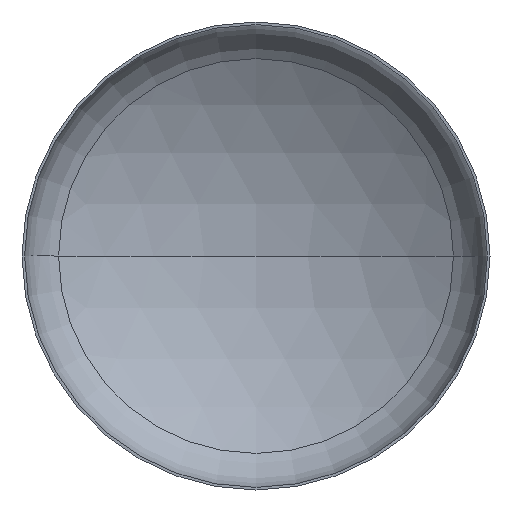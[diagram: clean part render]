
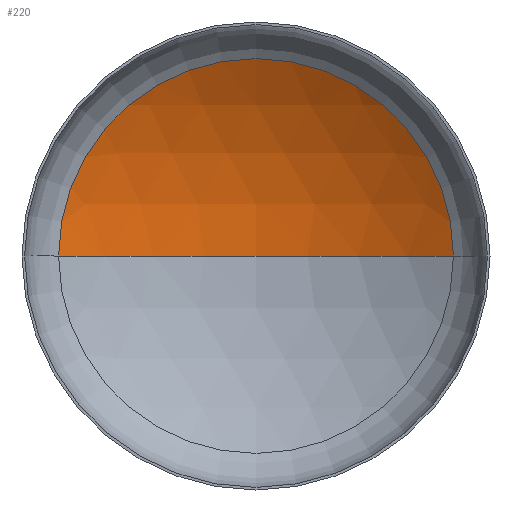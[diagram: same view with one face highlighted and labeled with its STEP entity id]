
A CAD part, front view. The second image highlights one B-rep face of the part: STEP entity #220.
In plain terms, the highlighted spherical face has radius 4400 mm.
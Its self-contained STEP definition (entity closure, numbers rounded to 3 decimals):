
#11 = EDGE_LOOP ( 'NONE', ( #158, #88, #79 ) ) ;
#24 = DIRECTION ( 'NONE',  ( -1., 0., 0. ) ) ;
#39 = VERTEX_POINT ( 'NONE', #200 ) ;
#43 = CIRCLE ( 'NONE', #327, 2319.437 ) ;
#79 = ORIENTED_EDGE ( 'NONE', *, *, #336, .T. ) ;
#88 = ORIENTED_EDGE ( 'NONE', *, *, #124, .T. ) ;
#90 = VERTEX_POINT ( 'NONE', #359 ) ;
#96 = EDGE_CURVE ( 'NONE', #139, #90, #217, .T. ) ;
#99 = SPHERICAL_SURFACE ( 'NONE', #162, 4400. ) ;
#124 = EDGE_CURVE ( 'NONE', #139, #39, #136, .T. ) ;
#136 = CIRCLE ( 'NONE', #351, 4400. ) ;
#139 = VERTEX_POINT ( 'NONE', #339 ) ;
#143 = DIRECTION ( 'NONE',  ( 0., 0., 1. ) ) ;
#147 = DIRECTION ( 'NONE',  ( 0., -1., 0. ) ) ;
#158 = ORIENTED_EDGE ( 'NONE', *, *, #96, .F. ) ;
#162 = AXIS2_PLACEMENT_3D ( 'NONE', #365, #263, #24 ) ;
#181 = FACE_OUTER_BOUND ( 'NONE', #11, .T. ) ;
#200 = CARTESIAN_POINT ( 'NONE',  ( 2319.437, 818.06, 0. ) ) ;
#201 = CARTESIAN_POINT ( 'NONE',  ( 0., -2920.952, 0. ) ) ;
#217 = CIRCLE ( 'NONE', #299, 4400. ) ;
#220 = ADVANCED_FACE ( 'NONE', ( #181 ), #99, .F. ) ;
#226 = CARTESIAN_POINT ( 'NONE',  ( 0., -2920.952, 0. ) ) ;
#232 = DIRECTION ( 'NONE',  ( 0., 0., -1. ) ) ;
#263 = DIRECTION ( 'NONE',  ( 0., 0., -1. ) ) ;
#299 = AXIS2_PLACEMENT_3D ( 'NONE', #226, #143, #332 ) ;
#311 = CARTESIAN_POINT ( 'NONE',  ( 0., 818.06, 0. ) ) ;
#327 = AXIS2_PLACEMENT_3D ( 'NONE', #311, #147, #335 ) ;
#332 = DIRECTION ( 'NONE',  ( 1., 0., 0. ) ) ;
#335 = DIRECTION ( 'NONE',  ( 1., 0., 0. ) ) ;
#336 = EDGE_CURVE ( 'NONE', #39, #90, #43, .T. ) ;
#339 = CARTESIAN_POINT ( 'NONE',  ( 0., 1479.048, 0. ) ) ;
#351 = AXIS2_PLACEMENT_3D ( 'NONE', #201, #232, #399 ) ;
#359 = CARTESIAN_POINT ( 'NONE',  ( -2319.437, 818.06, 0. ) ) ;
#365 = CARTESIAN_POINT ( 'NONE',  ( 0., -2920.952, 0. ) ) ;
#399 = DIRECTION ( 'NONE',  ( -1., 0., 0. ) ) ;
